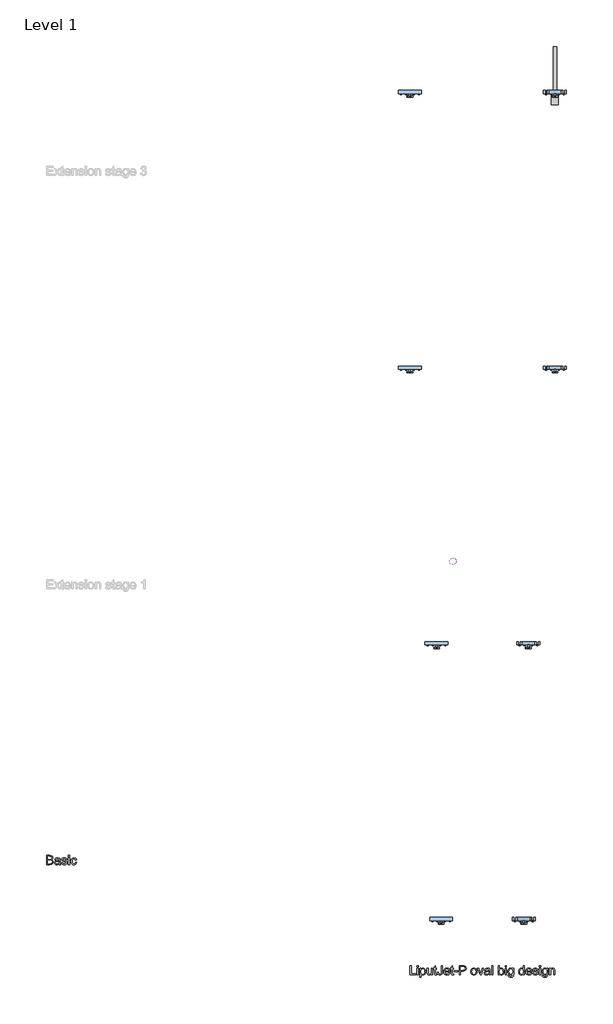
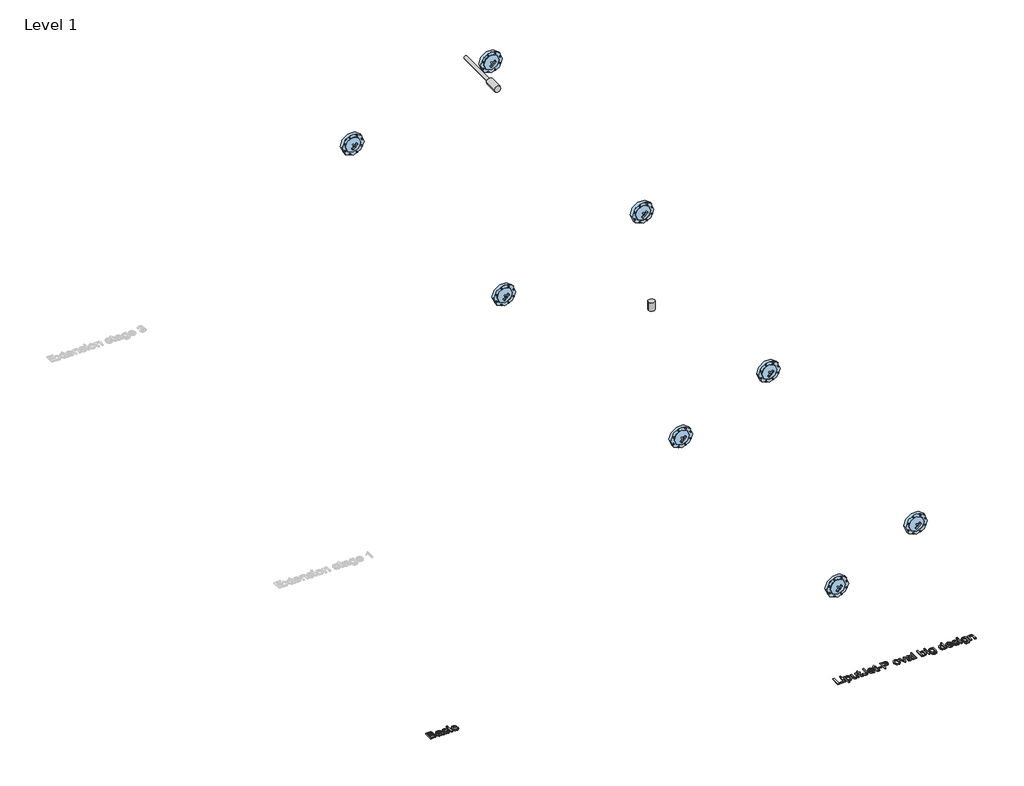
# One storey, part 1 of 2: 8 windows, 2 proxies, 2 unitary equipment elements.
"""IFC4 building model written with IfcOpenShell, lengths in millimetres."""

from ifc_helpers import new_model, si_unit, origin, origin_with_axes, place, context, project, spatial, polyline, outline, extrude, transform, mapped, element, save
from components import ns20_de95ed54, std_bcf9d813, std_43f00bc0

model = new_model("IFC4")

# Units and contexts
model_context = context("Model", 3, world=origin())
ifc_project = project(units=[si_unit("LENGTHUNIT", "METRE", prefix="MILLI")], contexts=[model_context])

# Site, building, storey
site = spatial("IfcSite", under=ifc_project)
building = spatial("IfcBuilding", under=site)
storey = spatial("IfcBuildingStorey", under=building, Name="Level 1", Elevation=0.0)

# Proxies
placement = place(None, origin())
element("IfcBuildingElementProxy", 1, Name="100mm ACO", ObjectType="100mm ACO", at=placement, inside=storey, context=model_context, shape_type="SweptSolid", body=[
    extrude(outline(polyline([(-3692.8989889, 902.806713), (-3678.4024611, 893.5763889), (-3673.5992204, 878.8483796), (-3677.7369519, 863.5416667), (-3689.4991046, 853.2841435), (-3710.1732944, 850.0), (-3747.6732944, 850.0), (-3747.6732944, 950.0), (-3711.3017667, 950.0), (-3696.2518535, 948.0034722), (-3686.4030398, 942.0138889), (-3680.9668419, 933.5865162), (-3679.1547759, 924.2766204), (-3682.5691278, 912.0659722), (-3692.8989889, 902.806713)]), holes=[polyline([(-3734.7103315, 861.1111111), (-3710.0575537, 861.1111111), (-3698.8560201, 862.2793692), (-3691.6981787, 865.7841435), (-3686.5621833, 878.7037037), (-3687.9293708, 886.0930266), (-3692.0309333, 891.6521991), (-3699.6987574, 895.135272), (-3711.7647296, 896.2962963), (-3734.7103315, 896.2962963), (-3734.7103315, 861.1111111)]), polyline([(-3734.7103315, 907.4074074), (-3713.9059333, 907.4074074), (-3703.1420444, 908.1886574), (-3695.4597528, 912.3408565), (-3692.1177389, 922.8009259), (-3695.488688, 933.7818287), (-3703.5326694, 938.1076389), (-3715.5263037, 938.8888889), (-3734.7103315, 938.8888889), (-3734.7103315, 907.4074074)])]), origin_with_axes(), (0.0, 0.0, 1.0), 10.0),
    extrude(outline(polyline([(-3593.9695907, 850.0), (-3606.9325537, 850.0), (-3610.6362574, 858.7384259), (-3623.1290236, 850.7957176), (-3636.5911185, 848.1481481), (-3646.5773743, 849.5949074), (-3654.1981787, 853.9351852), (-3659.0267377, 860.6481481), (-3660.6362574, 869.212963), (-3659.0592898, 877.520978), (-3654.328387, 884.2158565), (-3645.6984681, 889.1095197), (-3632.4244519, 892.0138889), (-3621.0818593, 893.75), (-3610.6362574, 896.2962963), (-3610.969012, 904.3258102), (-3612.9076694, 909.2013889), (-3618.0726, 913.2667824), (-3627.6501463, 914.8148148), (-3639.7305861, 911.6753472), (-3645.8214426, 900.0), (-3658.7844056, 901.5914352), (-3655.2289947, 911.400463), (-3648.5558176, 918.431713), (-3638.7721081, 922.6634838), (-3625.8851, 924.0740741), (-3606.6287343, 920.2112269), (-3599.0766509, 910.8940972), (-3597.6732944, 896.8460648), (-3597.6732944, 880.3240741), (-3597.1235259, 860.0694444), (-3593.9695907, 850.0)]), holes=[polyline([(-3610.6362574, 882.4074074), (-3610.6362574, 887.037037), (-3633.9146139, 881.712963), (-3644.2336243, 877.6548032), (-3647.6732944, 869.4155093), (-3643.9695907, 860.7928241), (-3633.2925074, 857.4074074), (-3617.4794287, 863.0787037), (-3612.3470502, 870.7465278), (-3610.6362574, 882.4074074)])]), origin_with_axes(), (0.0, 0.0, 1.0), 10.0),
    extrude(outline(polyline([(-3538.4140352, 901.8518519), (-3543.2028083, 911.5740741), (-3554.2705167, 914.8148148), (-3565.5841741, 912.037037), (-3569.8955167, 903.9641204), (-3567.0454009, 896.8171296), (-3553.6050074, 892.9398148), (-3535.8822065, 888.7731481), (-3526.8399611, 882.4508102), (-3523.5992204, 871.1226852), (-3525.6102157, 862.1925637), (-3531.6432019, 854.7887731), (-3541.0399032, 849.8083044), (-3553.1420444, 848.1481481), (-3565.6167262, 849.5442708), (-3575.031512, 853.7326389), (-3581.3936359, 860.7060185), (-3584.7103315, 870.4571759), (-3571.7473685, 872.2222222), (-3566.1484102, 861.0966435), (-3553.1420444, 857.4074074), (-3540.8445907, 861.2413194), (-3536.5621833, 870.5729167), (-3538.4863731, 876.5480324), (-3543.2896139, 879.9189815), (-3556.8746833, 882.8125), (-3577.8092898, 890.625), (-3582.8584796, 903.2118056), (-3580.9885433, 911.4981192), (-3575.3787343, 918.1857639), (-3566.6077562, 922.6019965), (-3555.254313, 924.0740741), (-3543.322166, 922.7864583), (-3534.3775769, 918.9236111), (-3528.4205456, 912.4927662), (-3525.4510722, 903.5011574), (-3538.4140352, 901.8518519)])), origin_with_axes(), (0.0, 0.0, 1.0), 10.0),
    extrude(outline(polyline([(-3497.6732944, 937.037037), (-3510.6362574, 937.037037), (-3510.6362574, 950.0), (-3497.6732944, 950.0), (-3497.6732944, 937.037037)])), origin_with_axes(), (0.0, 0.0, 1.0), 10.0),
    extrude(outline(polyline([(-3497.6732944, 850.0), (-3510.6362574, 850.0), (-3510.6362574, 922.2222222), (-3497.6732944, 922.2222222), (-3497.6732944, 850.0)])), origin_with_axes(), (0.0, 0.0, 1.0), 10.0),
    extrude(outline(polyline([(-3418.0436648, 874.4502315), (-3422.0728894, 862.6446759), (-3429.2415815, 854.4849537), (-3438.5659449, 849.7323495), (-3449.0621833, 848.1481481), (-3463.3778662, 850.7378472), (-3474.0332481, 858.5069444), (-3480.6521718, 870.5512153), (-3482.8584796, 885.9664352), (-3477.8237574, 908.6516204), (-3465.2224843, 920.6163194), (-3449.3226, 924.0740741), (-3429.863688, 918.4172454), (-3423.327953, 911.433015), (-3419.8955167, 901.7939815), (-3432.8584796, 900.0), (-3438.7612574, 911.0966435), (-3449.1779241, 914.8148148), (-3458.1333639, 912.9304109), (-3464.629313, 907.2771991), (-3468.5789657, 898.2458044), (-3469.8955167, 886.2268519), (-3468.5753488, 873.9981192), (-3464.6148454, 864.916088), (-3458.165916, 859.2845775), (-3449.3804704, 857.4074074), (-3436.7791972, 862.037037), (-3431.0066278, 875.9259259), (-3418.0436648, 874.4502315)])), origin_with_axes(), (0.0, 0.0, 1.0), 10.0),
])
element("IfcBuildingElementProxy", 2, Name="100mm ACO", ObjectType="100mm ACO", at=placement, inside=storey, context=model_context, shape_type="SweptSolid", body=[
    extrude(outline(polyline([(275.0, -350.0), (212.037037, -350.0), (212.037037, -250.0), (225.0, -250.0), (225.0, -338.8888889), (275.0, -338.8888889), (275.0, -350.0)])), origin_with_axes(), (0.0, 0.0, 1.0), 10.0),
    extrude(outline(polyline([(300.9259259, -350.0), (287.962963, -350.0), (287.962963, -277.7777778), (300.9259259, -277.7777778), (300.9259259, -350.0)])), origin_with_axes(), (0.0, 0.0, 1.0), 10.0),
    extrude(outline(polyline([(300.9259259, -262.962963), (287.962963, -262.962963), (287.962963, -250.0), (300.9259259, -250.0), (300.9259259, -262.962963)])), origin_with_axes(), (0.0, 0.0, 1.0), 10.0),
    extrude(outline(polyline([(332.5376157, -286.4872685), (340.9939236, -278.5662616), (352.662037, -275.9259259), (364.9884259, -278.515625), (374.4212963, -286.2847222), (380.4108796, -298.2132523), (382.4074074, -313.28125), (380.150463, -329.1702836), (373.3796296, -341.4207176), (363.3246528, -349.2440683), (351.2152778, -351.8518519), (340.8420139, -349.7251157), (332.7546296, -343.3449074), (332.4074074, -377.7777778), (319.4444444, -377.7777778), (319.4444444, -277.7777778), (332.4074074, -277.7777778), (332.5376157, -286.4872685)]), holes=[polyline([(349.7974537, -342.5925926), (357.5701678, -340.766059), (363.8744213, -335.2864583), (368.0519387, -326.1899595), (369.4444444, -313.5127315), (368.1025752, -301.4359086), (364.0769676, -292.5202546), (357.9607928, -287.0189525), (350.3472222, -285.1851852), (342.4660012, -287.2287326), (336.1255787, -293.359375), (331.9480613, -302.7452257), (330.5555556, -314.5543981), (331.890191, -326.66739), (335.8940972, -335.4600694), (342.0392072, -340.8094618), (349.7974537, -342.5925926)])]), origin_with_axes(), (0.0, 0.0, 1.0), 10.0),
    extrude(outline(polyline([(456.4814815, -350.0), (445.3703704, -350.0), (445.3703704, -339.4965278), (435.1273148, -348.7630208), (422.1643519, -351.8518519), (408.0439815, -348.3362269), (399.3923611, -338.6574074), (397.2222222, -322.65625), (397.2222222, -277.7777778), (410.1851852, -277.7777778), (410.1851852, -318.75), (411.0821759, -332.8414352), (415.7696759, -339.84375), (424.7974537, -342.5925926), (437.5434028, -337.6736111), (442.0247396, -330.1215278), (443.5185185, -317.3032407), (443.5185185, -277.7777778), (456.4814815, -277.7777778), (456.4814815, -350.0)])), origin_with_axes(), (0.0, 0.0, 1.0), 10.0),
    extrude(outline(polyline([(502.7777778, -351.0127315), (493.6921296, -351.8518519), (482.103588, -348.9728009), (477.662037, -341.6666667), (476.8518519, -329.3402778), (476.8518519, -287.037037), (467.5925926, -287.037037), (467.5925926, -277.7777778), (476.8518519, -277.7777778), (476.8518519, -259.4328704), (489.8148148, -251.8518519), (489.8148148, -277.7777778), (500.9259259, -277.7777778), (500.9259259, -287.037037), (489.8148148, -287.037037), (489.8148148, -331.9444444), (490.8564815, -340.162037), (496.1516204, -342.5925926), (501.1863426, -342.5925926), (502.7777778, -351.0127315)])), origin_with_axes(), (0.0, 0.0, 1.0), 10.0),
    extrude(outline(polyline([(563.8888889, -318.1134259), (562.0153356, -333.8143808), (556.3946759, -344.1695602), (547.4320023, -349.9312789), (535.5324074, -351.8518519), (523.6328125, -349.9891493), (515.1331019, -344.4010417), (510.0332755, -335.0730613), (508.3333333, -321.9907407), (521.2962963, -320.3703704), (525.1591435, -335.6481481), (536.2268519, -340.7407407), (546.166088, -337.5), (550.1736111, -330.0202546), (550.9259259, -319.4444444), (550.9259259, -250.0), (563.8888889, -250.0), (563.8888889, -318.1134259)])), origin_with_axes(), (0.0, 0.0, 1.0), 10.0),
    extrude(outline(polyline([(645.3703704, -316.6666667), (591.6666667, -316.6666667), (593.7391493, -327.7922454), (598.4519676, -335.9375), (605.2336516, -340.9288194), (613.5127315, -342.5925926), (625.1880787, -338.9033565), (632.4074074, -327.7777778), (645.3703704, -329.2824074), (640.9939236, -338.9033565), (634.056713, -346.0069444), (624.8119213, -350.390625), (613.5127315, -351.8518519), (598.9257813, -349.3453414), (587.9195602, -341.8258102), (581.0076678, -329.9660012), (578.7037037, -314.4386574), (580.9244792, -298.900463), (587.5868056, -286.6030093), (598.2855903, -278.5951968), (612.6157407, -275.9259259), (627.8356481, -279.3836806), (640.2633102, -291.1603009), (644.0936053, -301.6963252), (645.3703704, -316.6666667)]), holes=[polyline([(632.4074074, -307.4074074), (630.3240741, -297.2511574), (625.5787037, -290.3935185), (612.2974537, -285.1851852), (604.4415509, -286.7332176), (598.119213, -291.3773148), (591.6666667, -307.4074074), (632.4074074, -307.4074074)])]), origin_with_axes(), (0.0, 0.0, 1.0), 10.0),
    extrude(outline(polyline([(687.962963, -351.0127315), (678.8773148, -351.8518519), (667.2887731, -348.9728009), (662.8472222, -341.6666667), (662.037037, -329.3402778), (662.037037, -287.037037), (652.7777778, -287.037037), (652.7777778, -277.7777778), (662.037037, -277.7777778), (662.037037, -259.4328704), (675.0, -251.8518519), (675.0, -277.7777778), (686.1111111, -277.7777778), (686.1111111, -287.037037), (675.0, -287.037037), (675.0, -331.9444444), (676.0416667, -340.162037), (681.3368056, -342.5925926), (686.3715278, -342.5925926), (687.962963, -351.0127315)])), origin_with_axes(), (0.0, 0.0, 1.0), 10.0),
    extrude(outline(polyline([(732.4074074, -316.6666667), (693.5185185, -316.6666667), (693.5185185, -307.4074074), (732.4074074, -307.4074074), (732.4074074, -316.6666667)])), origin_with_axes(), (0.0, 0.0, 1.0), 10.0),
    extrude(outline(polyline([(747.2222222, -250.0), (784.7800926, -250.0), (800.0868056, -250.8825231), (812.0081019, -255.46875), (820.3269676, -265.5237269), (823.1481481, -278.8194444), (820.9237558, -291.2507234), (814.2505787, -300.9403935), (802.6728877, -307.1795428), (785.7349537, -309.2592593), (760.1851852, -309.2592593), (760.1851852, -350.0), (747.2222222, -350.0), (747.2222222, -250.0)]), holes=[polyline([(760.1851852, -298.1481481), (786.255787, -298.1481481), (804.2028356, -293.4100116), (808.6895978, -287.4873409), (810.1851852, -279.1956019), (807.0746528, -268.2146991), (799.4357639, -262.2829861), (785.9664352, -261.1111111), (760.1851852, -261.1111111), (760.1851852, -298.1481481)])]), origin_with_axes(), (0.0, 0.0, 1.0), 10.0),
    extrude(outline(polyline([(906.4525463, -275.9259259), (919.6289063, -278.3203125), (930.3385417, -285.5034722), (937.4457465, -297.0992477), (939.8148148, -312.7314815), (937.250434, -331.0040509), (929.5572917, -342.9976852), (918.6523438, -349.6383102), (906.4525463, -351.8518519), (893.8621238, -349.5768229), (883.0584491, -342.7517361), (875.6257234, -330.9859664), (873.1481481, -313.8888889), (875.5425347, -297.1715856), (882.7256944, -285.3298611), (893.4461806, -278.2769097), (906.4525463, -275.9259259)]), holes=[polyline([(906.4525463, -342.5925926), (915.2596933, -340.5852141), (921.6579861, -334.5630787), (926.8518519, -313.4259259), (925.3833912, -301.1429398), (920.9780093, -292.3032407), (914.4097222, -286.9646991), (906.4525463, -285.1851852), (898.3398438, -286.9900174), (891.8258102, -292.4045139), (887.5397859, -301.3925058), (886.1111111, -313.9178241), (887.5651042, -326.3997396), (891.9270833, -335.3732639), (898.4664352, -340.7877604), (906.4525463, -342.5925926)])]), origin_with_axes(), (0.0, 0.0, 1.0), 10.0),
    extrude(outline(polyline([(1012.037037, -277.7777778), (986.1979167, -350.0), (975.0578704, -350.0), (947.2222222, -277.7777778), (958.912037, -277.7777778), (974.3923611, -319.5891204), (979.6296296, -335.6770833), (983.6516204, -323.9583333), (1000.3472222, -277.7777778), (1012.037037, -277.7777778)])), origin_with_axes(), (0.0, 0.0, 1.0), 10.0),
    extrude(outline(polyline([(1086.1111111, -350.0), (1073.1481481, -350.0), (1069.4444444, -341.2615741), (1056.9516782, -349.2042824), (1043.4895833, -351.8518519), (1033.5033275, -350.4050926), (1025.8825231, -346.0648148), (1021.0539641, -339.3518519), (1019.4444444, -330.787037), (1021.021412, -322.479022), (1025.7523148, -315.7841435), (1034.3822338, -310.8904803), (1047.65625, -307.9861111), (1058.9988426, -306.25), (1069.4444444, -303.7037037), (1069.1116898, -295.6741898), (1067.1730324, -290.7986111), (1062.0081019, -286.7332176), (1052.4305556, -285.1851852), (1040.3501157, -288.3246528), (1034.2592593, -300.0), (1021.2962963, -298.4085648), (1024.8517072, -288.599537), (1031.5248843, -281.568287), (1041.3085938, -277.3365162), (1054.1956019, -275.9259259), (1073.4519676, -279.7887731), (1081.0040509, -289.1059028), (1082.4074074, -303.1539352), (1082.4074074, -319.6759259), (1082.9571759, -339.9305556), (1086.1111111, -350.0)]), holes=[polyline([(1069.4444444, -317.5925926), (1069.4444444, -312.962963), (1046.166088, -318.287037), (1035.8470775, -322.3451968), (1032.4074074, -330.5844907), (1036.1111111, -339.2071759), (1046.7881944, -342.5925926), (1062.6012731, -336.9212963), (1067.7336516, -329.2534722), (1069.4444444, -317.5925926)])]), origin_with_axes(), (0.0, 0.0, 1.0), 10.0),
    extrude(outline(polyline([(1113.8888889, -350.0), (1100.9259259, -350.0), (1100.9259259, -250.0), (1113.8888889, -250.0), (1113.8888889, -350.0)])), origin_with_axes(), (0.0, 0.0, 1.0), 10.0),
    extrude(outline(polyline([(1184.4328704, -284.9247685), (1192.7951389, -278.1756366), (1203.8773148, -275.9259259), (1216.30136, -278.4722222), (1225.9693287, -286.1111111), (1232.1867766, -297.8587963), (1234.2592593, -312.7314815), (1231.9806134, -329.4668692), (1225.1446759, -341.7679398), (1215.2560764, -349.3308738), (1203.8194444, -351.8518519), (1192.8023727, -349.3778935), (1184.5196759, -341.9560185), (1184.2592593, -350.0), (1171.2962963, -350.0), (1171.2962963, -250.0), (1184.2592593, -250.0), (1184.4328704, -284.9247685)]), holes=[polyline([(1202.6041667, -342.5925926), (1210.0224248, -340.7009549), (1216.015625, -335.0260417), (1219.9761285, -325.9295428), (1221.2962963, -313.7731481), (1216.4351852, -292.896412), (1210.6481481, -287.1129919), (1203.0092593, -285.1851852), (1195.384838, -287.1744792), (1189.4097222, -293.1423611), (1184.2592593, -313.28125), (1186.400463, -330.2372685), (1192.8530093, -338.9322917), (1202.6041667, -342.5925926)])]), origin_with_axes(), (0.0, 0.0, 1.0), 10.0),
    extrude(outline(polyline([(1262.037037, -350.0), (1249.0740741, -350.0), (1249.0740741, -277.7777778), (1262.037037, -277.7777778), (1262.037037, -350.0)])), origin_with_axes(), (0.0, 0.0, 1.0), 10.0),
    extrude(outline(polyline([(1262.037037, -262.962963), (1249.0740741, -262.962963), (1249.0740741, -250.0), (1262.037037, -250.0), (1262.037037, -262.962963)])), origin_with_axes(), (0.0, 0.0, 1.0), 10.0),
    extrude(outline(polyline([(1339.8148148, -339.3518519), (1336.7621528, -361.9936343), (1325.8969907, -373.6255787), (1307.2337963, -377.7777778), (1296.0177951, -376.3708044), (1286.8489583, -372.1498843), (1280.7400174, -364.7243924), (1278.7037037, -353.7037037), (1291.6666667, -355.7581019), (1296.2384259, -365.3211806), (1307.4363426, -368.5185185), (1320.7465278, -364.8292824), (1325.9114583, -355.8449074), (1326.8518519, -341.2326389), (1318.0772569, -347.8081597), (1307.2627315, -350.0), (1294.8712384, -347.3885995), (1285.1851852, -339.5543981), (1278.9351852, -327.7416088), (1276.8518519, -313.1944444), (1278.833912, -298.5532407), (1284.7800926, -286.5740741), (1294.2274306, -278.587963), (1306.712963, -275.9259259), (1317.7879051, -278.3058449), (1326.5914352, -285.4456019), (1326.8518519, -277.7777778), (1339.8148148, -277.7777778), (1339.8148148, -339.3518519)]), holes=[polyline([(1309.2013889, -340.7407407), (1316.4134838, -339.134838), (1322.7719907, -334.3171296), (1327.2207755, -325.7233796), (1328.7037037, -312.7893519), (1327.2894965, -301.0018808), (1323.046875, -292.3177083), (1316.7209201, -286.968316), (1309.056713, -285.1851852), (1301.3346354, -287.0117187), (1295.1822917, -292.4913194), (1291.156684, -301.1465567), (1289.8148148, -312.5), (1291.2217882, -325.2170139), (1295.4427083, -333.9699074), (1301.6963252, -339.0480324), (1309.2013889, -340.7407407)])]), origin_with_axes(), (0.0, 0.0, 1.0), 10.0),
    extrude(outline(polyline([(1456.4814815, -350.0), (1443.5185185, -350.0), (1443.5185185, -341.8402778), (1435.1634838, -349.3489583), (1423.7847222, -351.8518519), (1411.9176794, -349.2115162), (1402.1846065, -341.2905093), (1395.6850405, -329.1594329), (1393.5185185, -313.8888889), (1395.5946181, -298.1481481), (1401.8229167, -286.1111111), (1411.4583333, -278.4722222), (1423.755787, -275.9259259), (1435.0405093, -278.2118056), (1443.2581019, -285.0694444), (1443.5185185, -250.0), (1456.4814815, -250.0), (1456.4814815, -350.0)]), holes=[polyline([(1425.2893519, -342.5925926), (1432.3423032, -340.8854167), (1438.2233796, -335.7638889), (1442.1947338, -327.1701389), (1443.5185185, -315.0462963), (1438.671875, -293.287037), (1432.7727141, -287.2106481), (1424.7685185, -285.1851852), (1416.8221933, -287.1672454), (1411.0966435, -293.1134259), (1406.4814815, -313.9178241), (1408.9699074, -329.6730324), (1415.9143519, -339.3518519), (1425.2893519, -342.5925926)])]), origin_with_axes(), (0.0, 0.0, 1.0), 10.0),
    extrude(outline(polyline([(1537.962963, -316.6666667), (1484.2592593, -316.6666667), (1486.3317419, -327.7922454), (1491.0445602, -335.9375), (1497.8262442, -340.9288194), (1506.1053241, -342.5925926), (1517.7806713, -338.9033565), (1525.0, -327.7777778), (1537.962963, -329.2824074), (1533.5865162, -338.9033565), (1526.6493056, -346.0069444), (1517.4045139, -350.390625), (1506.1053241, -351.8518519), (1491.5183738, -349.3453414), (1480.5121528, -341.8258102), (1473.6002604, -329.9660012), (1471.2962963, -314.4386574), (1473.5170718, -298.900463), (1480.1793981, -286.6030093), (1490.8781829, -278.5951968), (1505.2083333, -275.9259259), (1520.4282407, -279.3836806), (1532.8559028, -291.1603009), (1536.6861979, -301.6963252), (1537.962963, -316.6666667)]), holes=[polyline([(1525.0, -307.4074074), (1522.9166667, -297.2511574), (1518.1712963, -290.3935185), (1504.8900463, -285.1851852), (1497.0341435, -286.7332176), (1490.7118056, -291.3773148), (1484.2592593, -307.4074074), (1525.0, -307.4074074)])]), origin_with_axes(), (0.0, 0.0, 1.0), 10.0),
    extrude(outline(polyline([(1593.5185185, -298.1481481), (1588.7297454, -288.4259259), (1577.662037, -285.1851852), (1566.3483796, -287.962963), (1562.037037, -296.0358796), (1564.8871528, -303.1828704), (1578.3275463, -307.0601852), (1596.0503472, -311.2268519), (1605.0925926, -317.5491898), (1608.3333333, -328.8773148), (1606.322338, -337.8074363), (1600.2893519, -345.2112269), (1590.8926505, -350.1916956), (1578.7905093, -351.8518519), (1566.3158275, -350.4557292), (1556.9010417, -346.2673611), (1550.5389178, -339.2939815), (1547.2222222, -329.5428241), (1560.1851852, -327.7777778), (1565.7841435, -338.9033565), (1578.7905093, -342.5925926), (1591.087963, -338.7586806), (1595.3703704, -329.4270833), (1593.4461806, -323.4519676), (1588.6429398, -320.0810185), (1575.0578704, -317.1875), (1554.1232639, -309.375), (1549.0740741, -296.7881944), (1550.9440104, -288.5018808), (1556.5538194, -281.8142361), (1565.3247975, -277.3980035), (1576.6782407, -275.9259259), (1588.6103877, -277.2135417), (1597.5549769, -281.0763889), (1603.5120081, -287.5072338), (1606.4814815, -296.4988426), (1593.5185185, -298.1481481)])), origin_with_axes(), (0.0, 0.0, 1.0), 10.0),
    extrude(outline(polyline([(1634.2592593, -350.0), (1621.2962963, -350.0), (1621.2962963, -277.7777778), (1634.2592593, -277.7777778), (1634.2592593, -350.0)])), origin_with_axes(), (0.0, 0.0, 1.0), 10.0),
    extrude(outline(polyline([(1634.2592593, -262.962963), (1621.2962963, -262.962963), (1621.2962963, -250.0), (1634.2592593, -250.0), (1634.2592593, -262.962963)])), origin_with_axes(), (0.0, 0.0, 1.0), 10.0),
    extrude(outline(polyline([(1712.037037, -339.3518519), (1708.984375, -361.9936343), (1698.119213, -373.6255787), (1679.4560185, -377.7777778), (1668.2400174, -376.3708044), (1659.0711806, -372.1498843), (1652.9622396, -364.7243924), (1650.9259259, -353.7037037), (1663.8888889, -355.7581019), (1668.4606481, -365.3211806), (1679.6585648, -368.5185185), (1692.96875, -364.8292824), (1698.1336806, -355.8449074), (1699.0740741, -341.2326389), (1690.2994792, -347.8081597), (1679.4849537, -350.0), (1667.0934606, -347.3885995), (1657.4074074, -339.5543981), (1651.1574074, -327.7416088), (1649.0740741, -313.1944444), (1651.0561343, -298.5532407), (1657.0023148, -286.5740741), (1666.4496528, -278.587963), (1678.9351852, -275.9259259), (1690.0101273, -278.3058449), (1698.8136574, -285.4456019), (1699.0740741, -277.7777778), (1712.037037, -277.7777778), (1712.037037, -339.3518519)]), holes=[polyline([(1681.4236111, -340.7407407), (1688.635706, -339.134838), (1694.994213, -334.3171296), (1699.4429977, -325.7233796), (1700.9259259, -312.7893519), (1699.5117188, -301.0018808), (1695.2690972, -292.3177083), (1688.9431424, -286.968316), (1681.2789352, -285.1851852), (1673.5568576, -287.0117187), (1667.4045139, -292.4913194), (1663.3789063, -301.1465567), (1662.037037, -312.5), (1663.4440104, -325.2170139), (1667.6649306, -333.9699074), (1673.9185475, -339.0480324), (1681.4236111, -340.7407407)])]), origin_with_axes(), (0.0, 0.0, 1.0), 10.0),
    extrude(outline(polyline([(1789.8148148, -350.0), (1776.8518519, -350.0), (1776.8518519, -305.0347222), (1772.9890046, -289.4386574), (1762.2395833, -285.1851852), (1752.2135417, -287.9050926), (1745.5005787, -295.5729167), (1743.5185185, -309.5775463), (1743.5185185, -350.0), (1730.5555556, -350.0), (1730.5555556, -277.7777778), (1741.6666667, -277.7777778), (1741.6666667, -287.818287), (1751.5625, -278.8917824), (1764.8148148, -275.9259259), (1776.1863426, -277.9803241), (1784.9826389, -284.1290509), (1788.990162, -292.8674769), (1789.8148148, -305.4108796), (1789.8148148, -350.0)])), origin_with_axes(), (0.0, 0.0, 1.0), 10.0),
])

# Unitary equipment
ns20_shape = ns20_de95ed54(model_context)
element("IfcUnitaryEquipment", 3, ObjectType="ME_PE_UN_oval big LipuJet-P-OD extension stage 1_ACO : NS20", at=placement, inside=storey, context=model_context, shape_type="MappedRepresentation", body=[
    mapped(ns20_shape, transform((1000.0, 3850.0, 0.0), x_axis=(1.0, 0.0, 0.0), y_axis=(0.0, 1.0, 0.0), z_axis=(0.0, 0.0, 1.0))),
])
std_shape = std_bcf9d813(model_context)
element("IfcUnitaryEquipment", 4, ObjectType="ZZZ_do not use_ME_ST_WPB_heating rod_ACO : std", at=placement, inside=storey, context=model_context, shape_type="MappedRepresentation", body=[
    mapped(std_shape, transform((1790.0, 9250.0, 897.0), x_axis=(-1.0, 0.0, 0.0), y_axis=(0.0, 0.0, -1.0), z_axis=(0.0, -1.0, 0.0))),
])

# Windows
std_2_shape = std_43f00bc0(model_context)
element("IfcWindow", 5, ObjectType="ZZZ_do not use_ME_PE_WPB_viewing window LipuJet-P_ACO : std", at=placement, inside=storey, context=model_context, shape_type="MappedRepresentation", body=[
    mapped(std_2_shape, transform((550.0, 250.0, 705.0), x_axis=(-1.0, 0.0, 0.0), y_axis=(0.0, 0.0, -1.0), z_axis=(0.0, -1.0, 0.0))),
])
element("IfcWindow", 6, ObjectType="ZZZ_do not use_ME_PE_WPB_viewing window LipuJet-P_ACO : std", at=placement, inside=storey, context=model_context, shape_type="MappedRepresentation", body=[
    mapped(std_2_shape, transform((1450.0, 250.0, 1147.0), x_axis=(-1.0, 0.0, 0.0), y_axis=(0.0, 0.0, -1.0), z_axis=(0.0, -1.0, 0.0))),
])
element("IfcWindow", 7, ObjectType="ZZZ_do not use_ME_PE_WPB_viewing window LipuJet-P_ACO : std", at=placement, inside=storey, context=model_context, shape_type="MappedRepresentation", body=[
    mapped(std_2_shape, transform((500.0, 3250.0, 705.0), x_axis=(-1.0, 0.0, 0.0), y_axis=(0.0, 0.0, -1.0), z_axis=(0.0, -1.0, 0.0))),
])
element("IfcWindow", 8, ObjectType="ZZZ_do not use_ME_PE_WPB_viewing window LipuJet-P_ACO : std", at=placement, inside=storey, context=model_context, shape_type="MappedRepresentation", body=[
    mapped(std_2_shape, transform((1500.0, 3250.0, 1147.0), x_axis=(-1.0, 0.0, 0.0), y_axis=(0.0, 0.0, -1.0), z_axis=(0.0, -1.0, 0.0))),
])
element("IfcWindow", 9, ObjectType="ZZZ_do not use_ME_PE_WPB_viewing window LipuJet-P_ACO : std", at=placement, inside=storey, context=model_context, shape_type="MappedRepresentation", body=[
    mapped(std_2_shape, transform((210.0, 6250.0, 705.0), x_axis=(-1.0, 0.0, 0.0), y_axis=(0.0, 0.0, -1.0), z_axis=(0.0, -1.0, 0.0))),
])
element("IfcWindow", 10, ObjectType="ZZZ_do not use_ME_PE_WPB_viewing window LipuJet-P_ACO : std", at=placement, inside=storey, context=model_context, shape_type="MappedRepresentation", body=[
    mapped(std_2_shape, transform((1790.0, 6250.0, 1147.0), x_axis=(-1.0, 0.0, 0.0), y_axis=(0.0, 0.0, -1.0), z_axis=(0.0, -1.0, 0.0))),
])
element("IfcWindow", 11, ObjectType="ZZZ_do not use_ME_PE_WPB_viewing window LipuJet-P_ACO : std", at=placement, inside=storey, context=model_context, shape_type="MappedRepresentation", body=[
    mapped(std_2_shape, transform((210.0, 9250.0, 705.0), x_axis=(-1.0, 0.0, 0.0), y_axis=(0.0, 0.0, -1.0), z_axis=(0.0, -1.0, 0.0))),
])
element("IfcWindow", 12, ObjectType="ZZZ_do not use_ME_PE_WPB_viewing window LipuJet-P_ACO : std", at=placement, inside=storey, context=model_context, shape_type="MappedRepresentation", body=[
    mapped(std_2_shape, transform((1790.0, 9250.0, 1147.0), x_axis=(-1.0, 0.0, 0.0), y_axis=(0.0, 0.0, -1.0), z_axis=(0.0, -1.0, 0.0))),
])

save(model, "model.ifc")
